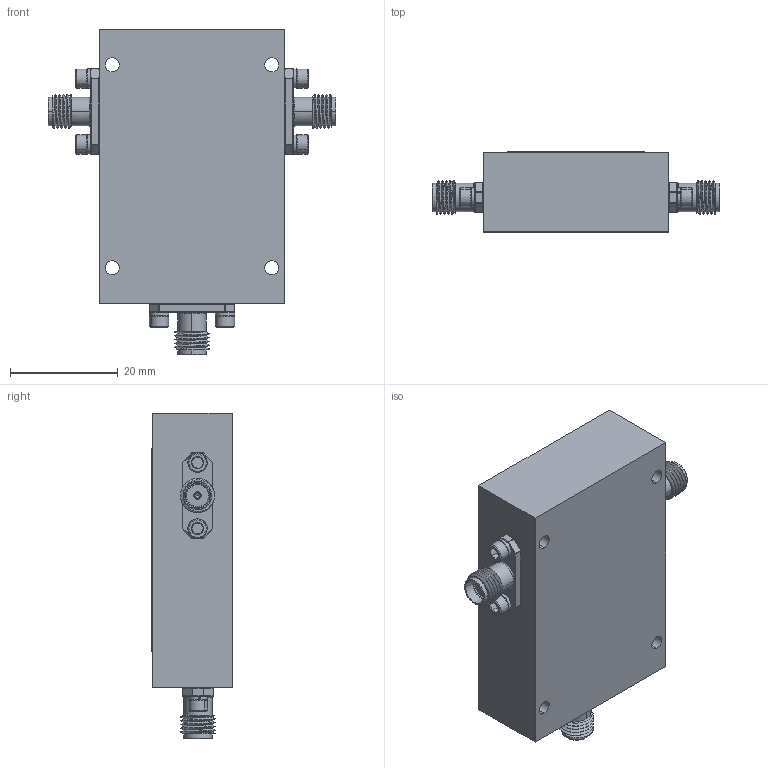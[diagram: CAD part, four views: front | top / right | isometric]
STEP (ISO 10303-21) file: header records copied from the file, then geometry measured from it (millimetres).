
FILE_DESCRIPTION (( 'STEP AP214' ), '1' );
FILE_NAME ('IRMX-8G12G-50-33-SFF.STEP', '2025-09-26T17:47:37', ( '' ), ( '' ), 'SwSTEP 2.0', 'SolidWorks 2024', '' );
FILE_SCHEMA (( 'AUTOMOTIVE_DESIGN' ));
Length unit declared in the file: inch
Products named in the file (1): IRMX-8G12G-50-33-SFF
Bounding box: 53.34 x 14.91 x 60.33 mm (x, y, z)
Volume: 26630.4 mm3; surface area: 10485.2 mm2
Topology: 17 solids, 17 shells, 774 faces, 2568 edges, 1921 vertices
Faces by surface type: plane 273, cylinder 231, torus 120, cone 90, sphere 48, bspline 12
Entity records: 44877 total; most frequent: CARTESIAN_POINT 12838, ORIENTED_EDGE 5016, DIRECTION 4181, EDGE_CURVE 2508, VERTEX_POINT 1921, AXIS2_PLACEMENT_3D 1505, VECTOR 1171, LINE 1171
